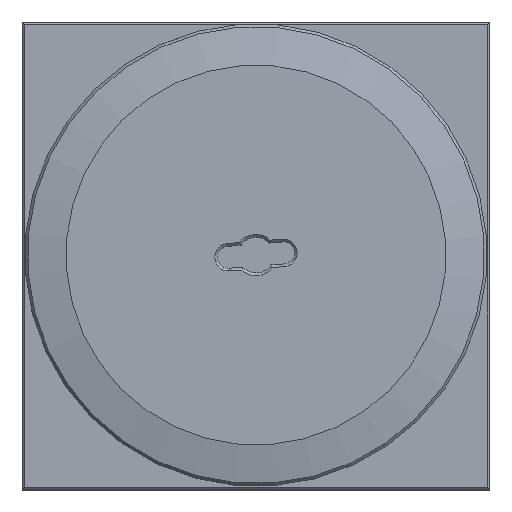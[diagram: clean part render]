
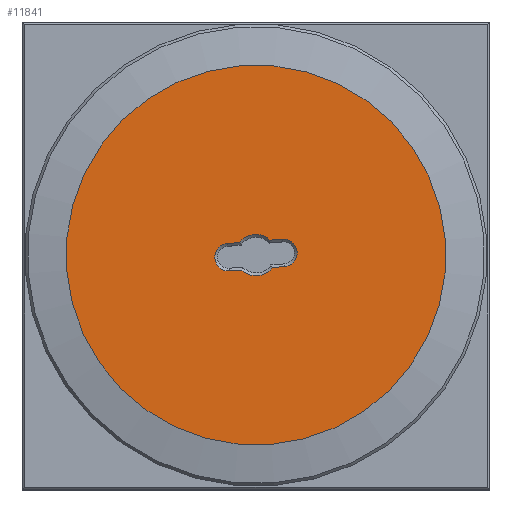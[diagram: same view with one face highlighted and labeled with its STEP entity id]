
A CAD part, top view. The second image highlights one B-rep face of the part: STEP entity #11841.
In plain terms, the highlighted planar face has unit normal (0, 0, 1).
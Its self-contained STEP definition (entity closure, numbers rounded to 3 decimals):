
#1019=FACE_BOUND('',#2724,.T.);
#1259=PLANE('',#13121);
#1942=FACE_OUTER_BOUND('',#2723,.T.);
#2723=EDGE_LOOP('',(#10956));
#2724=EDGE_LOOP('',(#10957,#10958,#10959,#10960,#10961,#10962,#10963,#10964));
#3259=CIRCLE('',#13101,7.5);
#3261=CIRCLE('',#13105,5.);
#3264=CIRCLE('',#13110,7.5);
#3265=CIRCLE('',#13112,5.);
#3269=CIRCLE('',#13122,69.);
#4007=LINE('',#31578,#4762);
#4010=LINE('',#31599,#4765);
#4012=LINE('',#31611,#4767);
#4015=LINE('',#31629,#4770);
#4762=VECTOR('',#16000,10.);
#4765=VECTOR('',#16011,10.);
#4767=VECTOR('',#16021,10.);
#4770=VECTOR('',#16038,10.);
#5830=VERTEX_POINT('',#31575);
#5831=VERTEX_POINT('',#31577);
#5832=VERTEX_POINT('',#31584);
#5836=VERTEX_POINT('',#31596);
#5837=VERTEX_POINT('',#31598);
#5839=VERTEX_POINT('',#31606);
#5841=VERTEX_POINT('',#31616);
#5843=VERTEX_POINT('',#31624);
#5849=VERTEX_POINT('',#31650);
#7527=EDGE_CURVE('',#5830,#5831,#4007,.T.);
#7529=EDGE_CURVE('',#5831,#5832,#3259,.T.);
#7534=EDGE_CURVE('',#5836,#5837,#4010,.T.);
#7537=EDGE_CURVE('',#5839,#5836,#3261,.T.);
#7539=EDGE_CURVE('',#5832,#5839,#4012,.T.);
#7542=EDGE_CURVE('',#5837,#5841,#3264,.T.);
#7545=EDGE_CURVE('',#5843,#5830,#3265,.T.);
#7547=EDGE_CURVE('',#5841,#5843,#4015,.T.);
#7558=EDGE_CURVE('',#5849,#5849,#3269,.T.);
#10956=ORIENTED_EDGE('',*,*,#7558,.F.);
#10957=ORIENTED_EDGE('',*,*,#7534,.F.);
#10958=ORIENTED_EDGE('',*,*,#7537,.F.);
#10959=ORIENTED_EDGE('',*,*,#7539,.F.);
#10960=ORIENTED_EDGE('',*,*,#7529,.F.);
#10961=ORIENTED_EDGE('',*,*,#7527,.F.);
#10962=ORIENTED_EDGE('',*,*,#7545,.F.);
#10963=ORIENTED_EDGE('',*,*,#7547,.F.);
#10964=ORIENTED_EDGE('',*,*,#7542,.F.);
#11841=ADVANCED_FACE('',(#1942,#1019),#1259,.T.);
#13101=AXIS2_PLACEMENT_3D('',#31585,#16003,#16004);
#13105=AXIS2_PLACEMENT_3D('',#31608,#16015,#16016);
#13110=AXIS2_PLACEMENT_3D('',#31617,#16027,#16028);
#13112=AXIS2_PLACEMENT_3D('',#31626,#16032,#16033);
#13121=AXIS2_PLACEMENT_3D('',#31649,#16059,#16060);
#13122=AXIS2_PLACEMENT_3D('',#31651,#16061,#16062);
#16000=DIRECTION('',(0.,-1.,0.));
#16003=DIRECTION('center_axis',(0.,0.,1.));
#16004=DIRECTION('ref_axis',(-0.615,0.788,0.));
#16011=DIRECTION('',(0.,1.,0.));
#16015=DIRECTION('center_axis',(0.,0.,1.));
#16016=DIRECTION('ref_axis',(0.,-1.,0.));
#16021=DIRECTION('',(0.,-1.,0.));
#16027=DIRECTION('center_axis',(0.,0.,1.));
#16028=DIRECTION('ref_axis',(0.615,-0.788,0.));
#16032=DIRECTION('center_axis',(0.,0.,1.));
#16033=DIRECTION('ref_axis',(0.,1.,0.));
#16038=DIRECTION('',(0.,1.,0.));
#16059=DIRECTION('center_axis',(0.,0.,1.));
#16060=DIRECTION('ref_axis',(1.,0.,0.));
#16061=DIRECTION('center_axis',(0.,0.,-1.));
#16062=DIRECTION('ref_axis',(-1.,0.,0.));
#31575=CARTESIAN_POINT('',(-5.,10.,5.));
#31577=CARTESIAN_POINT('',(-5.,5.59,5.));
#31578=CARTESIAN_POINT('',(-5.,2.562,5.));
#31584=CARTESIAN_POINT('',(-5.,-5.59,5.));
#31585=CARTESIAN_POINT('Origin',(0.,0.,5.));
#31596=CARTESIAN_POINT('',(5.,-10.,5.));
#31598=CARTESIAN_POINT('',(5.,-5.59,5.));
#31599=CARTESIAN_POINT('',(5.,-2.562,5.));
#31606=CARTESIAN_POINT('',(-5.,-10.,5.));
#31608=CARTESIAN_POINT('Origin',(0.,-10.,5.));
#31611=CARTESIAN_POINT('',(-5.,-5.,5.));
#31616=CARTESIAN_POINT('',(5.,5.59,5.));
#31617=CARTESIAN_POINT('Origin',(0.,0.,5.));
#31624=CARTESIAN_POINT('',(5.,10.,5.));
#31626=CARTESIAN_POINT('Origin',(0.,10.,5.));
#31629=CARTESIAN_POINT('',(5.,5.,5.));
#31649=CARTESIAN_POINT('Origin',(0.,0.,5.));
#31650=CARTESIAN_POINT('',(69.,0.,5.));
#31651=CARTESIAN_POINT('Origin',(0.,0.,5.));
